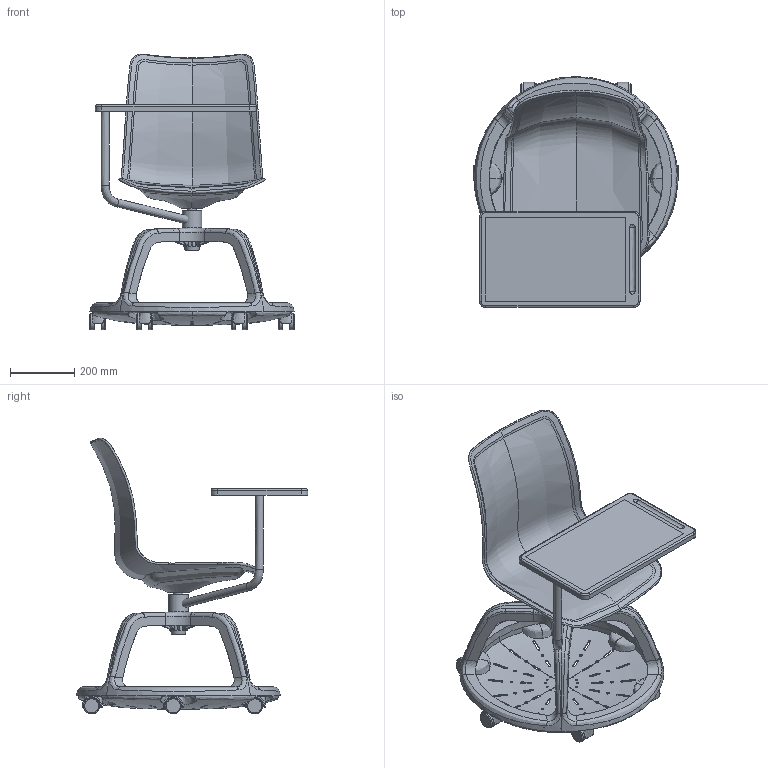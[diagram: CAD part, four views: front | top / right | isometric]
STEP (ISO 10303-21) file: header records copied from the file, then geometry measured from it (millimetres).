
FILE_DESCRIPTION(/* description */ (''),/* implementation_level */ '2;1');
FILE_NAME(/* name */ 'Campus 350',/* time_stamp */ '2019-04-23T16:32:07+02:00',/* author */ (''),/* organization */ (''),/* preprocessor_version */ 'ST-DEVELOPER v16.5',/* originating_system */ '',/* authorisation */ '');
FILE_SCHEMA (('AUTOMOTIVE_DESIGN'));
Length unit declared in the file: millimetre
Products named in the file (1): Document
Bounding box: 636 x 719.81 x 858.5 mm (x, y, z)
Volume: 7536789.1 mm3; surface area: 2954337.7 mm2
Topology: 12 solids, 89 shells, 804 faces, 2381 edges, 1632 vertices
Faces by surface type: bspline 465, plane 339
Entity records: 44482 total; most frequent: CARTESIAN_POINT 30596, ORIENTED_EDGE 3976, EDGE_CURVE 2362, B_SPLINE_CURVE_WITH_KNOTS 1791, VERTEX_POINT 1626, EDGE_LOOP 912, ADVANCED_FACE 804, FACE_OUTER_BOUND 804
